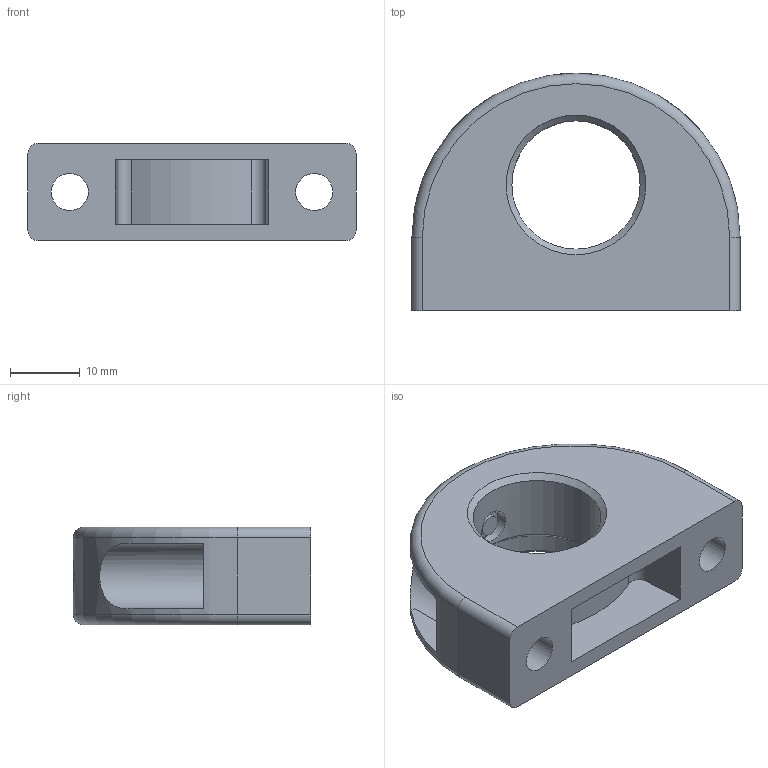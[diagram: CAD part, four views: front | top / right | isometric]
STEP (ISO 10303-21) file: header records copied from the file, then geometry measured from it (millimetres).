
FILE_DESCRIPTION( ( 'STEP AP203' ), '1' );
FILE_NAME( 'C:/Temp/Ganter_Step_05_03_2020/data/3_1/gn412_1/Mounting block GN 412.1-47-M20x1,5-1.stp', '2020-03-12T08:30:53', ( 'License CC BY-ND 4.0' ), ( 'CADENAS' ), ' ', 'PARTsolutions', ' ' );
FILE_SCHEMA( ( 'CONFIG_CONTROL_DESIGN' ) );
Length unit declared in the file: millimetre
Products named in the file (1): _Mounting block GN 412.1-47-M20x1,5-1
Bounding box: 47 x 34 x 14 mm (x, y, z)
Volume: 10901.9 mm3; surface area: 6255.4 mm2
Topology: 1 solids, 1 shells, 57 faces, 130 edges, 82 vertices
Faces by surface type: plane 31, cylinder 19, cone 5, torus 2
Full cylindrical faces by diameter (mm): 3 x1, 5 x2, 5.3 x2, 9.4 x2, 18.376 x1, 20.2 x1
Entity records: 1734 total; most frequent: CARTESIAN_POINT 454, DIRECTION 266, ORIENTED_EDGE 224, EDGE_CURVE 112, AXIS2_PLACEMENT_3D 102, EDGE_LOOP 82, VERTEX_POINT 80, FACE_OUTER_BOUND 64
